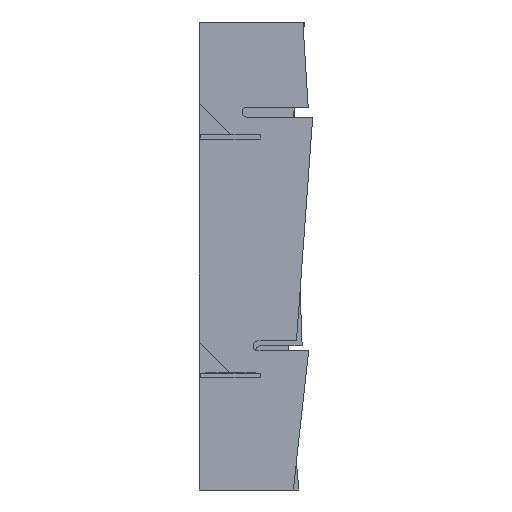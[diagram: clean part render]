
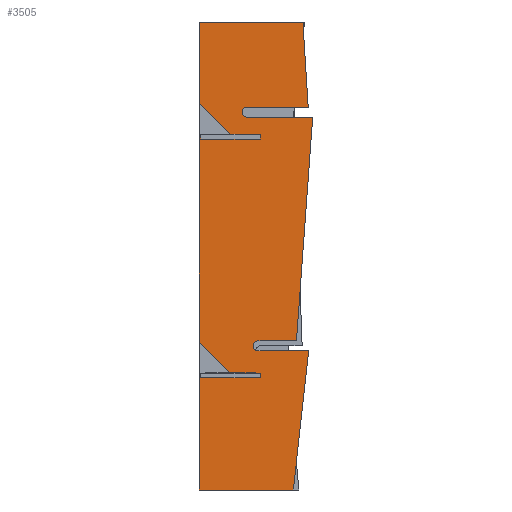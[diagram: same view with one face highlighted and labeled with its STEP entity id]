
A CAD part, left-side view. The second image highlights one B-rep face of the part: STEP entity #3505.
In plain terms, the highlighted planar face has unit normal (-1, 0, 0) as drawn and (0, 0, 1) by its records, which use the part's own axes.
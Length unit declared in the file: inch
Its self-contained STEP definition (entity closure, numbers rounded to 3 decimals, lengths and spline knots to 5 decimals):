
#50=CIRCLE('',#3780,0.49974);
#52=CIRCLE('',#3784,0.49739);
#54=CIRCLE('',#3787,0.49739);
#215=FACE_OUTER_BOUND('',#399,.T.);
#399=EDGE_LOOP('',(#2858,#2859,#2860,#2861,#2862,#2863,#2864,#2865,#2866,
#2867,#2868,#2869,#2870,#2871,#2872,#2873,#2874,#2875,#2876,#2877,#2878,
#2879,#2880,#2881,#2882,#2883,#2884));
#734=LINE('',#5354,#1206);
#762=LINE('',#5418,#1234);
#764=LINE('',#5422,#1236);
#766=LINE('',#5426,#1238);
#767=LINE('',#5428,#1239);
#769=LINE('',#5433,#1241);
#771=LINE('',#5436,#1243);
#773=LINE('',#5441,#1245);
#776=LINE('',#5446,#1248);
#778=LINE('',#5450,#1250);
#780=LINE('',#5455,#1252);
#783=LINE('',#5460,#1255);
#784=LINE('',#5462,#1256);
#785=LINE('',#5465,#1257);
#786=LINE('',#5466,#1258);
#787=LINE('',#5468,#1259);
#788=LINE('',#5470,#1260);
#789=LINE('',#5472,#1261);
#790=LINE('',#5474,#1262);
#791=LINE('',#5476,#1263);
#792=LINE('',#5478,#1264);
#793=LINE('',#5480,#1265);
#794=LINE('',#5482,#1266);
#795=LINE('',#5483,#1267);
#1206=VECTOR('',#4375,0.3937);
#1234=VECTOR('',#4419,0.3937);
#1236=VECTOR('',#4423,0.3937);
#1238=VECTOR('',#4427,0.3937);
#1239=VECTOR('',#4430,0.3937);
#1241=VECTOR('',#4434,0.3937);
#1243=VECTOR('',#4438,0.3937);
#1245=VECTOR('',#4442,0.3937);
#1248=VECTOR('',#4447,0.3937);
#1250=VECTOR('',#4451,0.3937);
#1252=VECTOR('',#4455,0.3937);
#1255=VECTOR('',#4460,0.3937);
#1256=VECTOR('',#4463,0.3937);
#1257=VECTOR('',#4466,0.3937);
#1258=VECTOR('',#4467,0.3937);
#1259=VECTOR('',#4468,0.3937);
#1260=VECTOR('',#4469,0.3937);
#1261=VECTOR('',#4470,0.3937);
#1262=VECTOR('',#4471,0.3937);
#1263=VECTOR('',#4472,0.3937);
#1264=VECTOR('',#4473,0.3937);
#1265=VECTOR('',#4474,0.3937);
#1266=VECTOR('',#4475,0.3937);
#1267=VECTOR('',#4476,0.3937);
#1593=VERTEX_POINT('',#5344);
#1594=VERTEX_POINT('',#5346);
#1596=VERTEX_POINT('',#5352);
#1599=VERTEX_POINT('',#5359);
#1600=VERTEX_POINT('',#5361);
#1602=VERTEX_POINT('',#5367);
#1624=VERTEX_POINT('',#5416);
#1625=VERTEX_POINT('',#5420);
#1626=VERTEX_POINT('',#5424);
#1627=VERTEX_POINT('',#5430);
#1628=VERTEX_POINT('',#5432);
#1629=VERTEX_POINT('',#5438);
#1630=VERTEX_POINT('',#5440);
#1631=VERTEX_POINT('',#5444);
#1632=VERTEX_POINT('',#5448);
#1633=VERTEX_POINT('',#5452);
#1634=VERTEX_POINT('',#5454);
#1635=VERTEX_POINT('',#5458);
#1636=VERTEX_POINT('',#5464);
#1637=VERTEX_POINT('',#5467);
#1638=VERTEX_POINT('',#5469);
#1639=VERTEX_POINT('',#5471);
#1640=VERTEX_POINT('',#5473);
#1641=VERTEX_POINT('',#5475);
#1642=VERTEX_POINT('',#5477);
#1643=VERTEX_POINT('',#5479);
#1644=VERTEX_POINT('',#5481);
#2010=EDGE_CURVE('',#1594,#1593,#50,.T.);
#2014=EDGE_CURVE('',#1593,#1596,#734,.T.);
#2017=EDGE_CURVE('',#1600,#1599,#52,.T.);
#2021=EDGE_CURVE('',#1599,#1602,#54,.T.);
#2046=EDGE_CURVE('',#1602,#1624,#762,.T.);
#2048=EDGE_CURVE('',#1624,#1625,#764,.T.);
#2050=EDGE_CURVE('',#1596,#1626,#766,.T.);
#2051=EDGE_CURVE('',#1626,#1600,#767,.T.);
#2053=EDGE_CURVE('',#1628,#1627,#769,.T.);
#2055=EDGE_CURVE('',#1627,#1594,#771,.T.);
#2057=EDGE_CURVE('',#1630,#1629,#773,.T.);
#2060=EDGE_CURVE('',#1629,#1631,#776,.T.);
#2062=EDGE_CURVE('',#1631,#1632,#778,.T.);
#2064=EDGE_CURVE('',#1634,#1633,#780,.T.);
#2067=EDGE_CURVE('',#1633,#1635,#783,.T.);
#2068=EDGE_CURVE('',#1635,#1630,#784,.T.);
#2069=EDGE_CURVE('',#1625,#1636,#785,.T.);
#2070=EDGE_CURVE('',#1636,#1634,#786,.T.);
#2071=EDGE_CURVE('',#1632,#1637,#787,.T.);
#2072=EDGE_CURVE('',#1637,#1638,#788,.T.);
#2073=EDGE_CURVE('',#1638,#1639,#789,.T.);
#2074=EDGE_CURVE('',#1639,#1640,#790,.T.);
#2075=EDGE_CURVE('',#1640,#1641,#791,.T.);
#2076=EDGE_CURVE('',#1641,#1642,#792,.T.);
#2077=EDGE_CURVE('',#1642,#1643,#793,.T.);
#2078=EDGE_CURVE('',#1643,#1644,#794,.T.);
#2079=EDGE_CURVE('',#1644,#1628,#795,.T.);
#2858=ORIENTED_EDGE('',*,*,#2050,.T.);
#2859=ORIENTED_EDGE('',*,*,#2051,.T.);
#2860=ORIENTED_EDGE('',*,*,#2017,.T.);
#2861=ORIENTED_EDGE('',*,*,#2021,.T.);
#2862=ORIENTED_EDGE('',*,*,#2046,.T.);
#2863=ORIENTED_EDGE('',*,*,#2048,.T.);
#2864=ORIENTED_EDGE('',*,*,#2069,.T.);
#2865=ORIENTED_EDGE('',*,*,#2070,.T.);
#2866=ORIENTED_EDGE('',*,*,#2064,.T.);
#2867=ORIENTED_EDGE('',*,*,#2067,.T.);
#2868=ORIENTED_EDGE('',*,*,#2068,.T.);
#2869=ORIENTED_EDGE('',*,*,#2057,.T.);
#2870=ORIENTED_EDGE('',*,*,#2060,.T.);
#2871=ORIENTED_EDGE('',*,*,#2062,.T.);
#2872=ORIENTED_EDGE('',*,*,#2071,.T.);
#2873=ORIENTED_EDGE('',*,*,#2072,.T.);
#2874=ORIENTED_EDGE('',*,*,#2073,.T.);
#2875=ORIENTED_EDGE('',*,*,#2074,.T.);
#2876=ORIENTED_EDGE('',*,*,#2075,.T.);
#2877=ORIENTED_EDGE('',*,*,#2076,.T.);
#2878=ORIENTED_EDGE('',*,*,#2077,.T.);
#2879=ORIENTED_EDGE('',*,*,#2078,.T.);
#2880=ORIENTED_EDGE('',*,*,#2079,.T.);
#2881=ORIENTED_EDGE('',*,*,#2053,.T.);
#2882=ORIENTED_EDGE('',*,*,#2055,.T.);
#2883=ORIENTED_EDGE('',*,*,#2010,.T.);
#2884=ORIENTED_EDGE('',*,*,#2014,.T.);
#3325=PLANE('',#3801);
#3505=ADVANCED_FACE('',(#215),#3325,.T.);
#3780=AXIS2_PLACEMENT_3D('',#5347,#4368,#4369);
#3784=AXIS2_PLACEMENT_3D('',#5362,#4381,#4382);
#3787=AXIS2_PLACEMENT_3D('',#5369,#4389,#4390);
#3801=AXIS2_PLACEMENT_3D('',#5463,#4464,#4465);
#4368=DIRECTION('center_axis',(0.,0.,-1.));
#4369=DIRECTION('ref_axis',(1.,0.,0.));
#4375=DIRECTION('',(0.,-1.,0.));
#4381=DIRECTION('center_axis',(0.,0.,-1.));
#4382=DIRECTION('ref_axis',(-0.005,1.,0.));
#4389=DIRECTION('center_axis',(0.,0.,-1.));
#4390=DIRECTION('ref_axis',(1.,-0.005,0.));
#4419=DIRECTION('',(0.,-1.,0.));
#4423=DIRECTION('',(0.998,0.062,0.));
#4427=DIRECTION('',(0.997,-0.072,0.));
#4430=DIRECTION('',(0.,1.,0.));
#4434=DIRECTION('',(0.994,-0.11,0.));
#4438=DIRECTION('',(0.,1.,0.));
#4442=DIRECTION('',(0.,1.,0.));
#4447=DIRECTION('',(1.,0.,0.));
#4451=DIRECTION('',(0.,1.,0.));
#4455=DIRECTION('',(-0.703,-0.711,0.));
#4460=DIRECTION('',(0.,-1.,0.));
#4463=DIRECTION('',(-1.,0.,0.));
#4464=DIRECTION('center_axis',(0.,0.,1.));
#4465=DIRECTION('ref_axis',(1.,0.,0.));
#4466=DIRECTION('',(0.,1.,0.));
#4467=DIRECTION('',(-1.,0.,0.));
#4468=DIRECTION('',(-1.,0.,0.));
#4469=DIRECTION('',(-0.703,-0.711,0.));
#4470=DIRECTION('',(0.,-1.,0.));
#4471=DIRECTION('',(-1.,0.,0.));
#4472=DIRECTION('',(0.,1.,0.));
#4473=DIRECTION('',(1.,0.,0.));
#4474=DIRECTION('',(0.,1.,0.));
#4475=DIRECTION('',(-1.,0.,0.));
#4476=DIRECTION('',(0.,-1.,0.));
#5344=CARTESIAN_POINT('',(14.97433,4.11024,0.48));
#5346=CARTESIAN_POINT('',(13.97485,4.11024,0.48));
#5347=CARTESIAN_POINT('Origin',(14.47459,4.11024,0.48));
#5352=CARTESIAN_POINT('',(14.97433,0.24629,0.48));
#5354=CARTESIAN_POINT('',(14.97433,2.62315,0.48));
#5359=CARTESIAN_POINT('',(37.94489,5.69515,0.48));
#5361=CARTESIAN_POINT('',(37.45016,5.19515,0.48));
#5362=CARTESIAN_POINT('Origin',(37.94754,5.19776,0.48));
#5367=CARTESIAN_POINT('',(38.43963,5.19515,0.48));
#5369=CARTESIAN_POINT('Origin',(37.94225,5.19776,0.48));
#5416=CARTESIAN_POINT('',(38.43963,-0.93709,0.48));
#5418=CARTESIAN_POINT('',(38.43963,5.19515,0.48));
#5420=CARTESIAN_POINT('',(47.,-0.40476,0.48));
#5422=CARTESIAN_POINT('',(38.43963,-0.93709,0.48));
#5424=CARTESIAN_POINT('',(37.45016,-1.38167,0.48));
#5426=CARTESIAN_POINT('',(14.97433,0.24629,0.48));
#5428=CARTESIAN_POINT('',(37.45016,5.09757,0.48));
#5430=CARTESIAN_POINT('',(13.97485,-0.98255,0.48));
#5432=CARTESIAN_POINT('',(0.,0.55767,0.48));
#5433=CARTESIAN_POINT('',(0.,0.55767,0.48));
#5436=CARTESIAN_POINT('',(13.97485,4.55512,0.48));
#5438=CARTESIAN_POINT('',(35.25,9.375,0.48));
#5440=CARTESIAN_POINT('',(35.25,4.375,0.48));
#5441=CARTESIAN_POINT('',(35.25,7.1875,0.48));
#5444=CARTESIAN_POINT('',(35.495,9.375,0.48));
#5446=CARTESIAN_POINT('',(29.4975,9.375,0.48));
#5448=CARTESIAN_POINT('',(35.495,10.,0.48));
#5450=CARTESIAN_POINT('',(35.495,7.5,0.48));
#5452=CARTESIAN_POINT('',(35.75,6.875,0.48));
#5454=CARTESIAN_POINT('',(38.8409,10.,0.48));
#5455=CARTESIAN_POINT('',(32.25238,3.33879,0.48));
#5458=CARTESIAN_POINT('',(35.75,4.375,0.48));
#5460=CARTESIAN_POINT('',(35.75,4.6875,0.48));
#5462=CARTESIAN_POINT('',(29.375,4.375,0.48));
#5463=CARTESIAN_POINT('Origin',(23.5,5.,0.48));
#5464=CARTESIAN_POINT('',(47.,10.,0.48));
#5465=CARTESIAN_POINT('',(47.,-0.55767,0.48));
#5466=CARTESIAN_POINT('',(47.,10.,0.48));
#5467=CARTESIAN_POINT('',(14.8409,10.,0.48));
#5468=CARTESIAN_POINT('',(47.,10.,0.48));
#5469=CARTESIAN_POINT('',(11.75,6.875,0.48));
#5470=CARTESIAN_POINT('',(14.18655,9.33843,0.48));
#5471=CARTESIAN_POINT('',(11.75,4.375,0.48));
#5472=CARTESIAN_POINT('',(11.75,4.6875,0.48));
#5473=CARTESIAN_POINT('',(11.25,4.375,0.48));
#5474=CARTESIAN_POINT('',(17.375,4.375,0.48));
#5475=CARTESIAN_POINT('',(11.25,9.375,0.48));
#5476=CARTESIAN_POINT('',(11.25,7.1875,0.48));
#5477=CARTESIAN_POINT('',(11.495,9.375,0.48));
#5478=CARTESIAN_POINT('',(17.4975,9.375,0.48));
#5479=CARTESIAN_POINT('',(11.495,10.,0.48));
#5480=CARTESIAN_POINT('',(11.495,7.5,0.48));
#5481=CARTESIAN_POINT('',(0.,10.,0.48));
#5482=CARTESIAN_POINT('',(47.,10.,0.48));
#5483=CARTESIAN_POINT('',(0.,10.,0.48));
